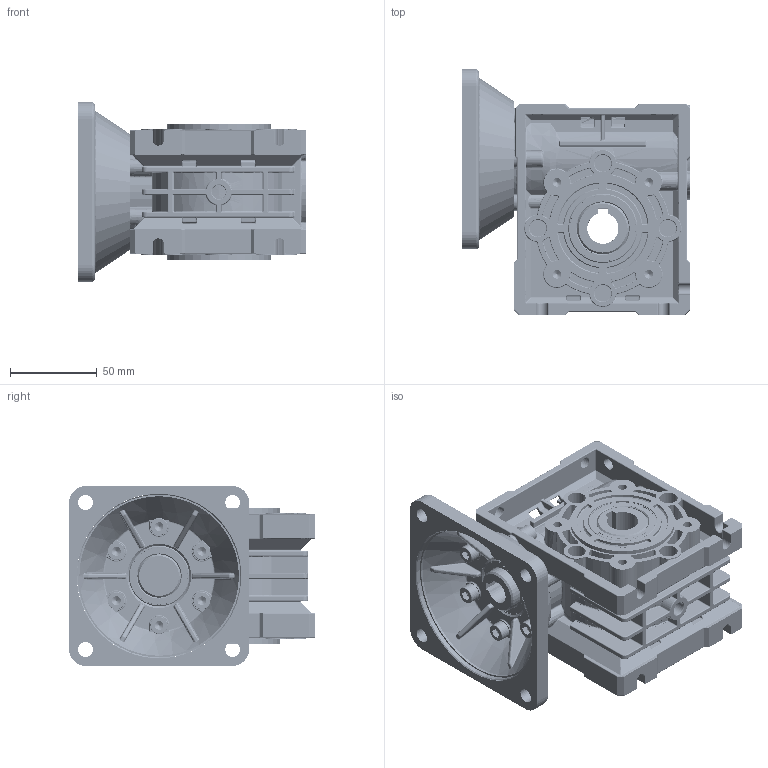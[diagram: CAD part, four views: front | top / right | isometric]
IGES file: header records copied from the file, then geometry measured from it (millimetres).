
Start section: SolidWorks IGES file using analytic representation for surfaces
Global section: file name: C:\Documents and Settings\user\官帕 拳搁\(12-25) 10WHD∴-040.IGS; native system: SolidWorks 2007; preprocessor: SolidWorks 2007; author: user; date: 150825.153424; units: millimetre
Bounding box: 132 x 142 x 104 mm (x, y, z)
Surface area: 218630.2 mm2 (no closed solid volume)
Topology: 0 solids, 0 shells, 3565 faces, 34075 edges, 33806 vertices
Faces by surface type: revolution 1864, bspline 1701
